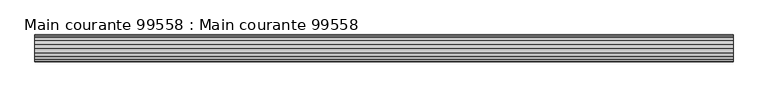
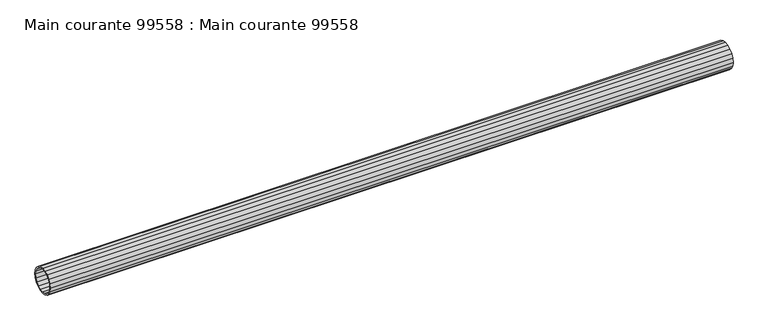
"""IFC4 building model written with IfcOpenShell, lengths in millimetres: beam geometry, Main courante 99558 : Main courante 99558."""

from ifc_helpers import new_model, si_unit, frame, origin, place, context, project, spatial, polyline, outline, extrude, source, transform, mapped, element, save


def main_courante_99558_main_courante_99558_ac463c1f(model_context):
    return source(origin(), model_context, "Body", "SweptSolid", [
        extrude(outline(polyline([(-24956.0, 8765.0), (-24954.8180149, 8772.4627604), (-24951.3877604, 8779.1950138), (-24946.0450138, 8784.5377604), (-24939.3127604, 8787.9680149), (-24931.85, 8789.15), (-24924.3872396, 8787.9680149), (-24917.6549862, 8784.5377604), (-24912.3122396, 8779.1950138), (-24908.8819851, 8772.4627604), (-24907.7, 8765.0), (-24908.8819851, 8757.5372396), (-24912.3122396, 8750.8049862), (-24917.6549862, 8745.4622396), (-24924.3872396, 8742.0319851), (-24931.85, 8740.85), (-24939.3127604, 8742.0319851), (-24946.0450138, 8745.4622396), (-24951.3877604, 8750.8049862), (-24954.8180149, 8757.5372396), (-24956.0, 8765.0)]), holes=[polyline([(-24910.2, 8765.0), (-24911.2596264, 8771.6902179), (-24914.3347821, 8777.7255507), (-24919.1244493, 8782.5152179), (-24925.1597821, 8785.5903736), (-24931.85, 8786.65), (-24938.5402179, 8785.5903736), (-24944.5755507, 8782.5152179), (-24949.3652179, 8777.7255507), (-24952.4403736, 8771.6902179), (-24953.5, 8765.0), (-24952.4403736, 8758.3097821), (-24949.3652179, 8752.2744493), (-24944.5755507, 8747.4847821), (-24938.5402179, 8744.4096264), (-24931.85, 8743.35), (-24925.1597821, 8744.4096264), (-24919.1244493, 8747.4847821), (-24914.3347821, 8752.2744493), (-24911.2596264, 8758.3097821), (-24910.2, 8765.0)])]), frame((6313.4999999, 0.0, 0.0), z_axis=(1.0, 0.0, 0.0), x_axis=(0.0, 1.0, 0.0)), (0.0, 0.0, 1.0), 1249.5),
    ])


if __name__ == "__main__":
    model = new_model("IFC4")
    model_context = context("Model", 3, world=origin())
    ifc_project = project(units=[si_unit("LENGTHUNIT", "METRE", prefix="MILLI")], contexts=[model_context])
    site = spatial("IfcSite", under=ifc_project)
    building = spatial("IfcBuilding", under=site)
    placement = place(None, origin())
    main_courante_99558_main_courante_99558_shape = main_courante_99558_main_courante_99558_ac463c1f(model_context)
    element("IfcBeam", 1, ObjectType="Main courante 99558 : Main courante 99558", at=placement, inside=building, context=model_context, shape_type="MappedRepresentation", body=[
        mapped(main_courante_99558_main_courante_99558_shape, transform((0.0, 0.0, 0.0), x_axis=(1.0, 0.0, 0.0), y_axis=(0.0, 1.0, 0.0), z_axis=(0.0, 0.0, 1.0))),
    ])
    save(model, "model.ifc")
